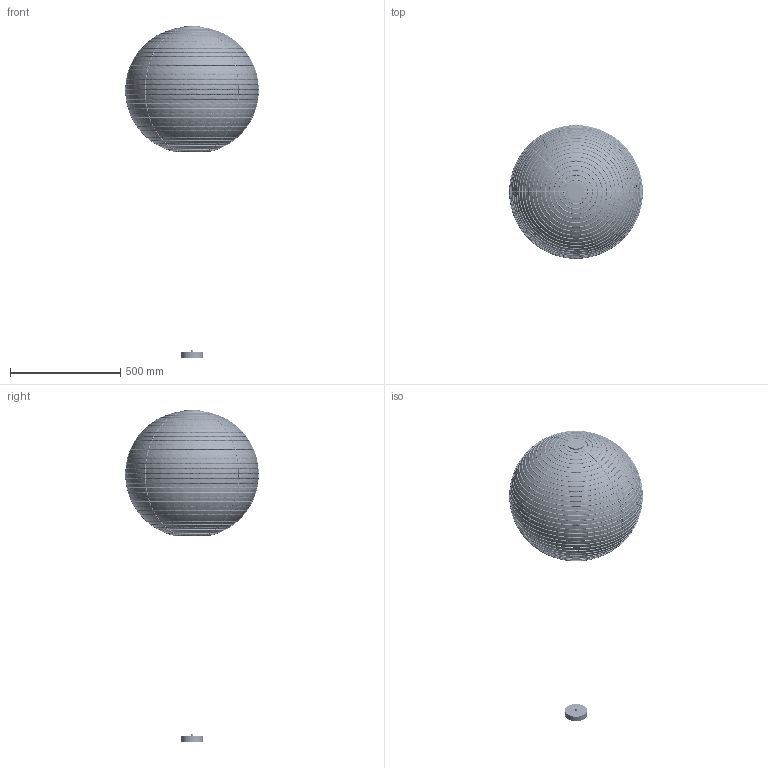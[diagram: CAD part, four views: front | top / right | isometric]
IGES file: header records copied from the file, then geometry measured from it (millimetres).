
Start section: SolidWorks IGES file using analytic representation for surfaces
Global section: file name: F:\燠隴矨\3D\6堎\Rice Paper 45A Pendant Lamp-D60.IGS; native system: SolidWorks 2022; preprocessor: SolidWorks 2022; author: MyPC; date: 230630.094817; units: millimetre
Bounding box: 606.82 x 606.84 x 1507.61 mm (x, y, z)
Surface area: 2676689.8 mm2 (no closed solid volume)
Topology: 0 solids, 0 shells, 419 faces, 3604 edges, 3603 vertices
Faces by surface type: bspline 379, revolution 40
